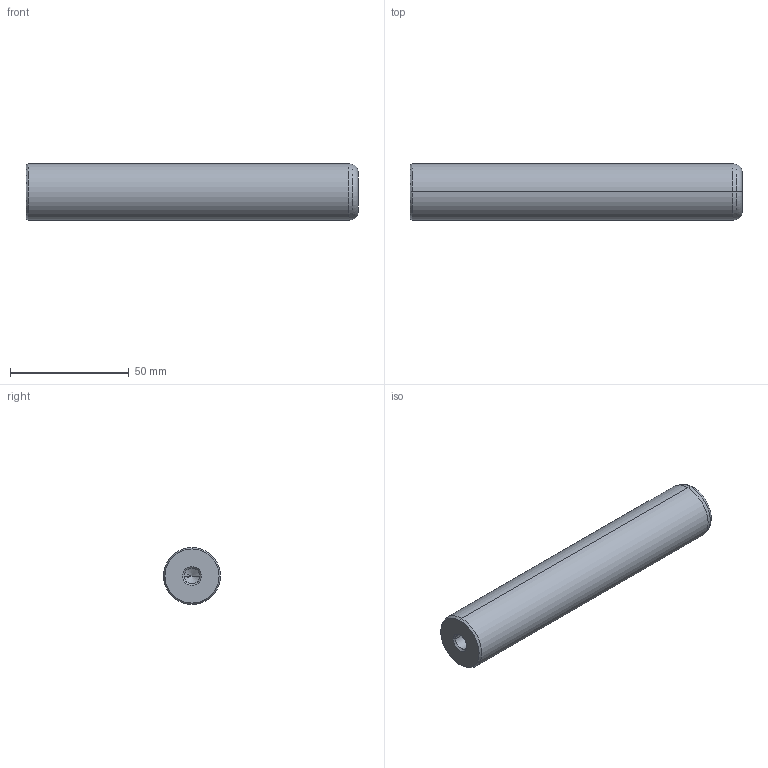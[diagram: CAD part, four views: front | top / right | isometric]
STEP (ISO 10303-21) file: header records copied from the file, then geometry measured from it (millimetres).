
FILE_DESCRIPTION(('CATIA V5 STEP Exchange'),'2;1');
FILE_NAME('C:\Users\Utente\Desktop\IO LAVORO\3D X SITO CF\X SITO\720\720-24x140.stp','2021-01-01T12:53:55+00:00',('none'),('none'),'CATIA Version 5 Release 20 GA (IN-10)','CATIA V5 STEP AP203','none');
FILE_SCHEMA(('CONFIG_CONTROL_DESIGN'));
Length unit declared in the file: millimetre
Products named in the file (1): 720-24x140
Bounding box: 140 x 24 x 24 mm (x, y, z)
Volume: 61368.7 mm3; surface area: 12295.8 mm2
Topology: 1 solids, 1 shells, 22 faces, 62 edges, 40 vertices
Faces by surface type: cone 12, cylinder 6, plane 2, torus 2
Entity records: 806 total; most frequent: CARTESIAN_POINT 229, ORIENTED_EDGE 116, DIRECTION 93, EDGE_CURVE 58, AXIS2_PLACEMENT_3D 54, VERTEX_POINT 40, CIRCLE 31, EDGE_LOOP 24
